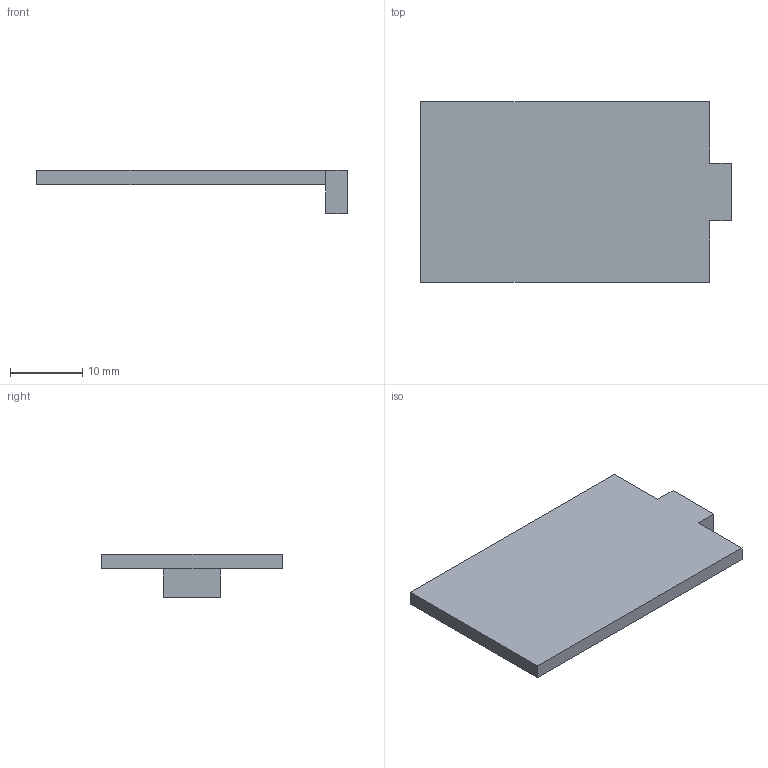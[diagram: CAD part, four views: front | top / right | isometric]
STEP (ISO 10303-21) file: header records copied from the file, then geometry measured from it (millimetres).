
FILE_DESCRIPTION(('Open CASCADE Model'),'2;1');
FILE_NAME('Open CASCADE Shape Model','2026-08-11T00:19:46',('Author'),( 'Open CASCADE'),'Open CASCADE STEP processor 7.8','Open CASCADE 7.8' ,'Unknown');
FILE_SCHEMA(('AUTOMOTIVE_DESIGN { 1 0 10303 214 1 1 1 1 }'));
Length unit declared in the file: millimetre
Products named in the file (1): Open CASCADE STEP translator 7.8 1
Bounding box: 43 x 25 x 6 mm (x, y, z)
Volume: 2144 mm3; surface area: 2408 mm2
Topology: 1 solids, 1 shells, 12 faces, 28 edges, 18 vertices
Faces by surface type: plane 12
Entity records: 710 total; most frequent: CARTESIAN_POINT 115, DIRECTION 110, LINE 84, VECTOR 84, ORIENTED_EDGE 56, PCURVE 56, DEFINITIONAL_REPRESENTATION 56, EDGE_CURVE 28
